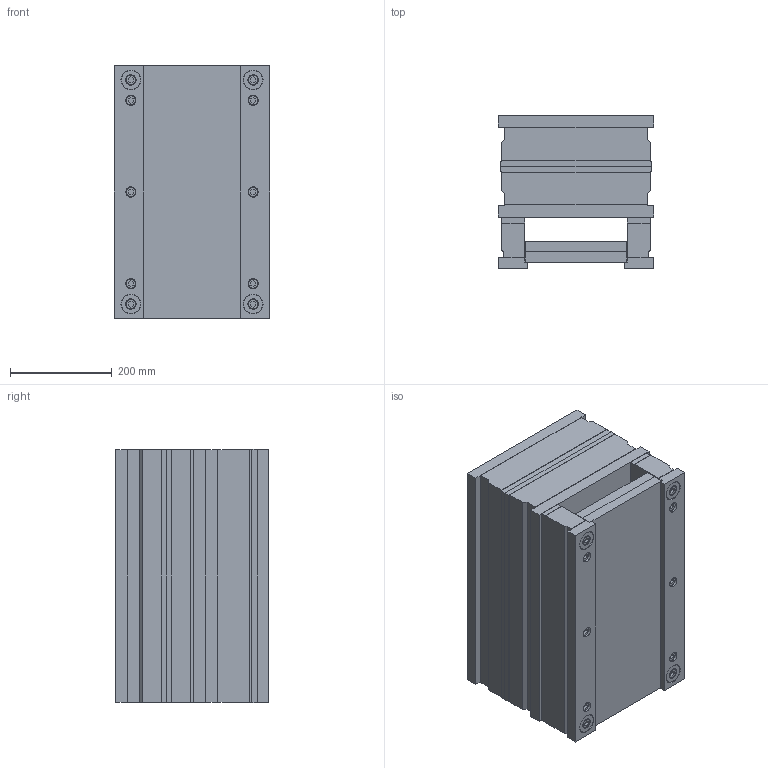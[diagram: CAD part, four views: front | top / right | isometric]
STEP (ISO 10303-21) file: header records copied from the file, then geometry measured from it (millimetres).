
FILE_DESCRIPTION (( 'STEP AP214' ), '1' );
FILE_NAME ('2963.STEP', '2002-07-10T07:56:20', ( 'Simcha Kilim' ), ( 'K. Plastics Engineering' ), 'SwSTEP 2.0', 'SolidWorks 2002025', '' );
FILE_SCHEMA (( 'AUTOMOTIVE_DESIGN' ));
Length unit declared in the file: millimetre
Products named in the file (14): 2963; ALMO (ejector return plate)_2963; ALMO (guide bush)_Ø24; ALMO (ejector half wide)_2963; ALMO (ejector plate)_2963; ALMO (guide bush)_Ø23; ALMO (key plate)_Ø24; ALMO (hot half)_2963; ALMO (guide pin)_Ø24; ALMO (screw)_M12x100; ALMO (riser)_2963; ALMO (screw)_M12x60; ALMO (screw)_M12x130; ALMO (guide pin)_Ø23
Assembly tree (36 placements, depth 2):
  2963
    ALMO (screw)_M12x100  x6
    ALMO (key plate)_Ø24  x8
    ALMO (screw)_M12x60  x4
    ALMO (riser)_2963  x2
    ALMO (screw)_M12x130  x4
    ALMO (ejector return plate)_2963
    ALMO (hot half)_2963
    ALMO (guide bush)_Ø24
    ALMO (ejector half wide)_2963
    ALMO (guide pin)_Ø23  x3
    ALMO (ejector plate)_2963
    ALMO (guide pin)_Ø24
    ALMO (guide bush)_Ø23  x3
Bounding box: 305 x 300 x 498 mm (x, y, z)
Volume: 37454553.3 mm3; surface area: 2057222 mm2
Topology: 36 solids, 36 shells, 922 faces, 1988 edges, 1234 vertices
Faces by surface type: plane 354, cylinder 340, cone 228
Entity records: 12931 total; most frequent: DIRECTION 2370, CARTESIAN_POINT 2076, ORIENTED_EDGE 1952, EDGE_CURVE 976, AXIS2_PLACEMENT_3D 908, VERTEX_POINT 614, LINE 554, VECTOR 554
